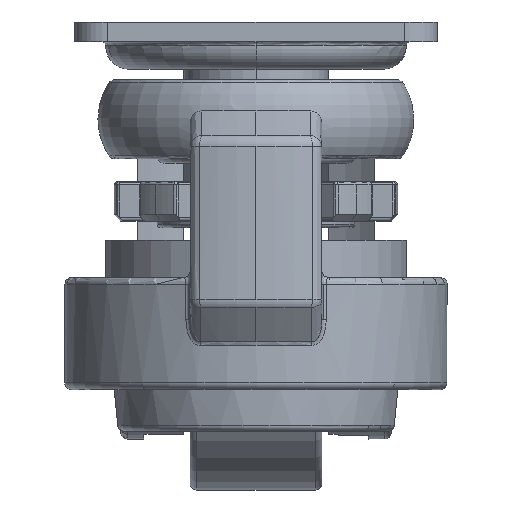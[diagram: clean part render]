
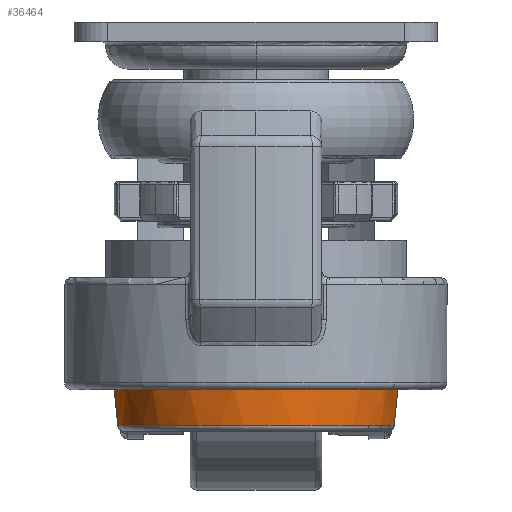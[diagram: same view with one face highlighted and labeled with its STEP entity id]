
A CAD part, left-side view. The second image highlights one B-rep face of the part: STEP entity #36464.
In plain terms, the highlighted conical face has half-angle 6.009 degrees and reference radius 22 mm.
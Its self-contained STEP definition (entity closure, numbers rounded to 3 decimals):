
#2992 = CARTESIAN_POINT ( 'NONE',  ( -3., 22.804, 12.4 ) ) ;
#3676 = DIRECTION ( 'NONE',  ( 0., 0., 1. ) ) ;
#3767 = DIRECTION ( 'NONE',  ( -1., 0., 0. ) ) ;
#10632 = ORIENTED_EDGE ( 'NONE', *, *, #25150, .T. ) ;
#10978 = CARTESIAN_POINT ( 'NONE',  ( -2.735, 22.167, 6.077 ) ) ;
#11748 = AXIS2_PLACEMENT_3D ( 'NONE', #21772, #50572, #30941 ) ;
#14359 = EDGE_CURVE ( 'NONE', #43667, #49006, #41769, .T. ) ;
#17336 = AXIS2_PLACEMENT_3D ( 'NONE', #49556, #37170, #3767 ) ;
#18443 = AXIS2_PLACEMENT_3D ( 'NONE', #49115, #3676, #49649 ) ;
#20944 = CARTESIAN_POINT ( 'NONE',  ( -3., 22.804, 12.4 ) ) ;
#21772 = CARTESIAN_POINT ( 'NONE',  ( 0., 0., 12.4 ) ) ;
#25150 = EDGE_CURVE ( 'NONE', #43667, #33272, #29384, .T. ) ;
#27653 = CONICAL_SURFACE ( 'NONE', #18443, 22., 0.105 ) ;
#29268 = EDGE_CURVE ( 'NONE', #32638, #49006, #39509, .T. ) ;
#29384 = B_SPLINE_CURVE_WITH_KNOTS ( 'NONE', 3,
 ( #34309, #34487, #34845, #51036 ),
 .UNSPECIFIED., .F., .F.,
 ( 4, 4 ),
 ( 0.944, 19.113 ),
 .UNSPECIFIED. ) ;
#29621 = EDGE_LOOP ( 'NONE', ( #46625, #10632, #50647, #40311 ) ) ;
#30941 = DIRECTION ( 'NONE',  ( 0., -1., 0. ) ) ;
#31292 = EDGE_CURVE ( 'NONE', #33272, #32638, #45513, .T. ) ;
#32160 = FACE_OUTER_BOUND ( 'NONE', #29621, .T. ) ;
#32638 = VERTEX_POINT ( 'NONE', #20944 ) ;
#33272 = VERTEX_POINT ( 'NONE', #45189 ) ;
#34309 = CARTESIAN_POINT ( 'NONE',  ( -2.239, -20.975, -5.705 ) ) ;
#34487 = CARTESIAN_POINT ( 'NONE',  ( -2.482, -21.559, 0.054 ) ) ;
#34845 = CARTESIAN_POINT ( 'NONE',  ( -2.735, -22.167, 6.077 ) ) ;
#35785 = CARTESIAN_POINT ( 'NONE',  ( -2.239, 20.975, -5.705 ) ) ;
#36464 = ADVANCED_FACE ( 'NONE', ( #32160 ), #27653, .T. ) ;
#37170 = DIRECTION ( 'NONE',  ( 0., 0., -1. ) ) ;
#39509 = B_SPLINE_CURVE_WITH_KNOTS ( 'NONE', 3,
 ( #2992, #10978, #48430, #39829 ),
 .UNSPECIFIED., .F., .F.,
 ( 4, 4 ),
 ( 0., 18.17 ),
 .UNSPECIFIED. ) ;
#39829 = CARTESIAN_POINT ( 'NONE',  ( -2.239, 20.975, -5.705 ) ) ;
#40311 = ORIENTED_EDGE ( 'NONE', *, *, #29268, .T. ) ;
#41769 = CIRCLE ( 'NONE', #17336, 21.094 ) ;
#43667 = VERTEX_POINT ( 'NONE', #51746 ) ;
#45189 = CARTESIAN_POINT ( 'NONE',  ( -3., -22.804, 12.4 ) ) ;
#45513 = CIRCLE ( 'NONE', #11748, 23. ) ;
#46625 = ORIENTED_EDGE ( 'NONE', *, *, #14359, .F. ) ;
#48430 = CARTESIAN_POINT ( 'NONE',  ( -2.482, 21.559, 0.054 ) ) ;
#49006 = VERTEX_POINT ( 'NONE', #35785 ) ;
#49115 = CARTESIAN_POINT ( 'NONE',  ( 0., 0., 2.9 ) ) ;
#49556 = CARTESIAN_POINT ( 'NONE',  ( 0., 0., -5.705 ) ) ;
#49649 = DIRECTION ( 'NONE',  ( 0., -1., 0. ) ) ;
#50572 = DIRECTION ( 'NONE',  ( 0., 0., -1. ) ) ;
#50647 = ORIENTED_EDGE ( 'NONE', *, *, #31292, .T. ) ;
#51036 = CARTESIAN_POINT ( 'NONE',  ( -3., -22.804, 12.4 ) ) ;
#51746 = CARTESIAN_POINT ( 'NONE',  ( -2.239, -20.975, -5.705 ) ) ;
